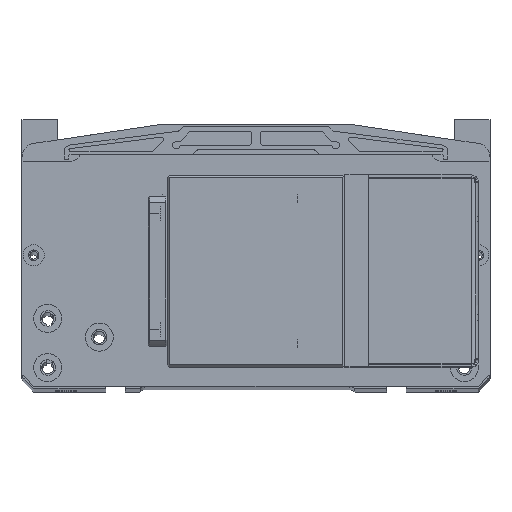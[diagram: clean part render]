
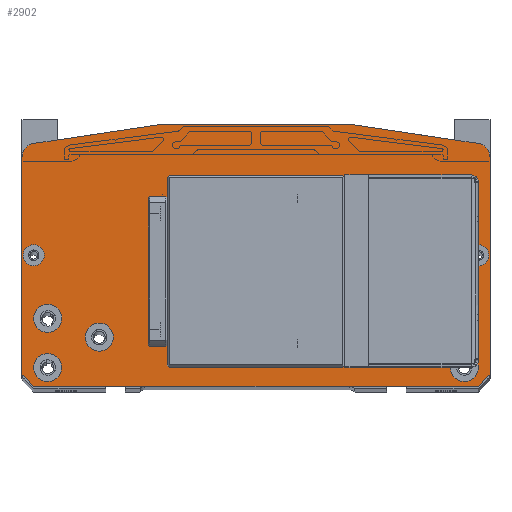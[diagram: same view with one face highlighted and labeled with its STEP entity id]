
A CAD part, top view. The second image highlights one B-rep face of the part: STEP entity #2902.
In plain terms, the highlighted planar face has unit normal (0, 0, 1).
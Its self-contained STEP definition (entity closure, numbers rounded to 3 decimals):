
#576=FACE_BOUND('',#5249,.T.);
#577=FACE_BOUND('',#5250,.T.);
#578=FACE_BOUND('',#5251,.T.);
#579=FACE_BOUND('',#5252,.T.);
#580=FACE_BOUND('',#5253,.T.);
#581=FACE_BOUND('',#5254,.T.);
#582=FACE_BOUND('',#5255,.T.);
#583=FACE_BOUND('',#5256,.T.);
#584=FACE_BOUND('',#5257,.T.);
#585=FACE_BOUND('',#5258,.T.);
#586=FACE_BOUND('',#5259,.T.);
#587=FACE_BOUND('',#5260,.T.);
#588=FACE_BOUND('',#5261,.T.);
#1221=PLANE('',#19138);
#1914=CIRCLE('',#19020,1.65);
#1929=CIRCLE('',#19049,1.65);
#1934=CIRCLE('',#19063,6.);
#1941=CIRCLE('',#19077,6.);
#1942=CIRCLE('',#19080,4.5);
#1946=CIRCLE('',#19087,4.5);
#1950=CIRCLE('',#19094,6.);
#1954=CIRCLE('',#19101,6.);
#1958=CIRCLE('',#19108,6.);
#1962=CIRCLE('',#19115,6.);
#1966=CIRCLE('',#19122,6.);
#1970=CIRCLE('',#19129,6.);
#2902=ADVANCED_FACE('',(#576,#577,#578,#579,#580,#581,#582,#583,#584,#585,
#586,#587,#588),#1221,.F.);
#5249=EDGE_LOOP('',(#11812,#11813,#11814,#11815));
#5250=EDGE_LOOP('',(#11816,#11817,#11818,#11819));
#5251=EDGE_LOOP('',(#11820));
#5252=EDGE_LOOP('',(#11821));
#5253=EDGE_LOOP('',(#11822,#11823,#11824,#11825,#11826,#11827,#11828,#11829,
#11830,#11831));
#5254=EDGE_LOOP('',(#11832));
#5255=EDGE_LOOP('',(#11833));
#5256=EDGE_LOOP('',(#11834));
#5257=EDGE_LOOP('',(#11835));
#5258=EDGE_LOOP('',(#11836));
#5259=EDGE_LOOP('',(#11837));
#5260=EDGE_LOOP('',(#11838));
#5261=EDGE_LOOP('',(#11839));
#5950=LINE('',#26451,#7349);
#6146=LINE('',#27484,#7545);
#6166=LINE('',#27529,#7565);
#6771=LINE('',#31545,#8170);
#6775=LINE('',#31553,#8174);
#6778=LINE('',#31559,#8177);
#6798=LINE('',#31595,#8197);
#6818=LINE('',#31767,#8217);
#6820=LINE('',#31770,#8219);
#6826=LINE('',#31783,#8225);
#6829=LINE('',#31789,#8228);
#6842=LINE('',#31825,#8241);
#6844=LINE('',#31910,#8243);
#6845=LINE('',#31913,#8244);
#6846=LINE('',#31915,#8245);
#6847=LINE('',#31917,#8246);
#7349=VECTOR('',#20355,1.);
#7545=VECTOR('',#20803,1.);
#7565=VECTOR('',#20853,1.);
#8170=VECTOR('',#22906,1.);
#8174=VECTOR('',#22912,1.);
#8177=VECTOR('',#22917,1.);
#8197=VECTOR('',#22949,1.);
#8217=VECTOR('',#23165,1.);
#8219=VECTOR('',#23169,1.);
#8225=VECTOR('',#23177,1.);
#8228=VECTOR('',#23182,1.);
#8241=VECTOR('',#23229,1.);
#8243=VECTOR('',#23349,1.);
#8244=VECTOR('',#23350,1.);
#8245=VECTOR('',#23351,1.);
#8246=VECTOR('',#23352,1.);
#11812=ORIENTED_EDGE('',*,*,#17078,.F.);
#11813=ORIENTED_EDGE('',*,*,#17079,.F.);
#11814=ORIENTED_EDGE('',*,*,#17080,.T.);
#11815=ORIENTED_EDGE('',*,*,#17081,.T.);
#11816=ORIENTED_EDGE('',*,*,#16921,.T.);
#11817=ORIENTED_EDGE('',*,*,#16924,.T.);
#11818=ORIENTED_EDGE('',*,*,#16944,.T.);
#11819=ORIENTED_EDGE('',*,*,#16917,.T.);
#11820=ORIENTED_EDGE('',*,*,#16979,.T.);
#11821=ORIENTED_EDGE('',*,*,#17007,.T.);
#11822=ORIENTED_EDGE('',*,*,#17012,.F.);
#11823=ORIENTED_EDGE('',*,*,#15854,.T.);
#11824=ORIENTED_EDGE('',*,*,#17044,.F.);
#11825=ORIENTED_EDGE('',*,*,#15878,.T.);
#11826=ORIENTED_EDGE('',*,*,#17043,.F.);
#11827=ORIENTED_EDGE('',*,*,#17014,.F.);
#11828=ORIENTED_EDGE('',*,*,#17020,.T.);
#11829=ORIENTED_EDGE('',*,*,#17023,.F.);
#11830=ORIENTED_EDGE('',*,*,#17024,.F.);
#11831=ORIENTED_EDGE('',*,*,#15580,.T.);
#11832=ORIENTED_EDGE('',*,*,#17074,.T.);
#11833=ORIENTED_EDGE('',*,*,#17070,.T.);
#11834=ORIENTED_EDGE('',*,*,#17066,.T.);
#11835=ORIENTED_EDGE('',*,*,#17062,.T.);
#11836=ORIENTED_EDGE('',*,*,#17058,.T.);
#11837=ORIENTED_EDGE('',*,*,#17054,.T.);
#11838=ORIENTED_EDGE('',*,*,#17050,.T.);
#11839=ORIENTED_EDGE('',*,*,#17046,.T.);
#13807=VERTEX_POINT('',#26450);
#13808=VERTEX_POINT('',#26452);
#13980=VERTEX_POINT('',#27483);
#13981=VERTEX_POINT('',#27485);
#13990=VERTEX_POINT('',#27528);
#13991=VERTEX_POINT('',#27530);
#14673=VERTEX_POINT('',#31535);
#14677=VERTEX_POINT('',#31544);
#14680=VERTEX_POINT('',#31552);
#14682=VERTEX_POINT('',#31558);
#14723=VERTEX_POINT('',#31692);
#14740=VERTEX_POINT('',#31751);
#14747=VERTEX_POINT('',#31771);
#14748=VERTEX_POINT('',#31772);
#14752=VERTEX_POINT('',#31782);
#14754=VERTEX_POINT('',#31788);
#14761=VERTEX_POINT('',#31829);
#14764=VERTEX_POINT('',#31839);
#14767=VERTEX_POINT('',#31849);
#14770=VERTEX_POINT('',#31859);
#14773=VERTEX_POINT('',#31869);
#14776=VERTEX_POINT('',#31879);
#14779=VERTEX_POINT('',#31889);
#14782=VERTEX_POINT('',#31899);
#14785=VERTEX_POINT('',#31911);
#14786=VERTEX_POINT('',#31912);
#14787=VERTEX_POINT('',#31914);
#14788=VERTEX_POINT('',#31916);
#15580=EDGE_CURVE('',#13808,#13807,#5950,.T.);
#15854=EDGE_CURVE('',#13981,#13980,#6146,.T.);
#15878=EDGE_CURVE('',#13991,#13990,#6166,.T.);
#16917=EDGE_CURVE('',#14673,#14677,#6771,.T.);
#16921=EDGE_CURVE('',#14677,#14680,#6775,.T.);
#16924=EDGE_CURVE('',#14680,#14682,#6778,.T.);
#16944=EDGE_CURVE('',#14682,#14673,#6798,.T.);
#16979=EDGE_CURVE('',#14723,#14723,#1914,.T.);
#17007=EDGE_CURVE('',#14740,#14740,#1929,.T.);
#17012=EDGE_CURVE('',#13981,#13807,#6818,.T.);
#17014=EDGE_CURVE('',#14747,#14748,#6820,.T.);
#17020=EDGE_CURVE('',#14747,#14752,#6826,.T.);
#17023=EDGE_CURVE('',#14754,#14752,#6829,.T.);
#17024=EDGE_CURVE('',#13808,#14754,#1934,.T.);
#17043=EDGE_CURVE('',#14748,#13990,#1941,.T.);
#17044=EDGE_CURVE('',#13991,#13980,#6842,.T.);
#17046=EDGE_CURVE('',#14761,#14761,#1942,.T.);
#17050=EDGE_CURVE('',#14764,#14764,#1946,.T.);
#17054=EDGE_CURVE('',#14767,#14767,#1950,.T.);
#17058=EDGE_CURVE('',#14770,#14770,#1954,.T.);
#17062=EDGE_CURVE('',#14773,#14773,#1958,.T.);
#17066=EDGE_CURVE('',#14776,#14776,#1962,.T.);
#17070=EDGE_CURVE('',#14779,#14779,#1966,.T.);
#17074=EDGE_CURVE('',#14782,#14782,#1970,.T.);
#17078=EDGE_CURVE('',#14785,#14786,#6844,.T.);
#17079=EDGE_CURVE('',#14787,#14785,#6845,.T.);
#17080=EDGE_CURVE('',#14787,#14788,#6846,.T.);
#17081=EDGE_CURVE('',#14788,#14786,#6847,.T.);
#19020=AXIS2_PLACEMENT_3D('',#31691,#23074,#23075);
#19049=AXIS2_PLACEMENT_3D('',#31750,#23145,#23146);
#19063=AXIS2_PLACEMENT_3D('',#31791,#23185,#23186);
#19077=AXIS2_PLACEMENT_3D('',#31823,#23225,#23226);
#19080=AXIS2_PLACEMENT_3D('',#31828,#23233,#23234);
#19087=AXIS2_PLACEMENT_3D('',#31838,#23247,#23248);
#19094=AXIS2_PLACEMENT_3D('',#31848,#23261,#23262);
#19101=AXIS2_PLACEMENT_3D('',#31858,#23275,#23276);
#19108=AXIS2_PLACEMENT_3D('',#31868,#23289,#23290);
#19115=AXIS2_PLACEMENT_3D('',#31878,#23303,#23304);
#19122=AXIS2_PLACEMENT_3D('',#31888,#23317,#23318);
#19129=AXIS2_PLACEMENT_3D('',#31898,#23331,#23332);
#19138=AXIS2_PLACEMENT_3D('',#31918,#23353,#23354);
#20355=DIRECTION('',(0.,-1.,0.));
#20803=DIRECTION('',(1.,0.,0.));
#20853=DIRECTION('',(0.,1.,0.));
#22906=DIRECTION('',(0.,1.,0.));
#22912=DIRECTION('',(1.,0.,0.));
#22917=DIRECTION('',(0.,-1.,0.));
#22949=DIRECTION('',(-1.,0.,0.));
#23074=DIRECTION('',(0.,0.,-1.));
#23075=DIRECTION('',(1.,0.,0.));
#23145=DIRECTION('',(0.,0.,-1.));
#23146=DIRECTION('',(1.,0.,0.));
#23165=DIRECTION('',(-0.707,0.707,0.));
#23169=DIRECTION('',(0.989,-0.148,0.));
#23177=DIRECTION('',(-1.,0.,0.));
#23182=DIRECTION('',(0.989,0.148,0.));
#23185=DIRECTION('',(0.,0.,-1.));
#23186=DIRECTION('',(-1.,0.,0.));
#23225=DIRECTION('',(0.,0.,-1.));
#23226=DIRECTION('',(0.148,0.989,0.));
#23229=DIRECTION('',(-0.707,-0.707,0.));
#23233=DIRECTION('',(0.,0.,-1.));
#23234=DIRECTION('',(1.,0.,0.));
#23247=DIRECTION('',(0.,0.,-1.));
#23248=DIRECTION('',(1.,0.,0.));
#23261=DIRECTION('',(0.,0.,-1.));
#23262=DIRECTION('',(1.,0.,0.));
#23275=DIRECTION('',(0.,0.,-1.));
#23276=DIRECTION('',(1.,0.,0.));
#23289=DIRECTION('',(0.,0.,-1.));
#23290=DIRECTION('',(1.,0.,0.));
#23303=DIRECTION('',(0.,0.,-1.));
#23304=DIRECTION('',(1.,0.,0.));
#23317=DIRECTION('',(0.,0.,-1.));
#23318=DIRECTION('',(1.,0.,0.));
#23331=DIRECTION('',(0.,0.,-1.));
#23332=DIRECTION('',(1.,0.,0.));
#23349=DIRECTION('',(1.,0.,0.));
#23350=DIRECTION('',(0.,-1.,0.));
#23351=DIRECTION('',(1.,0.,0.));
#23352=DIRECTION('',(0.,-1.,0.));
#23353=DIRECTION('',(0.,0.,-1.));
#23354=DIRECTION('',(-1.,0.,0.));
#26450=CARTESIAN_POINT('',(-100.,7.,463.));
#26451=CARTESIAN_POINT('',(-100.,99.833,463.));
#26452=CARTESIAN_POINT('',(-100.,99.833,463.));
#27483=CARTESIAN_POINT('',(95.,2.,463.));
#27484=CARTESIAN_POINT('',(67.5,2.,463.));
#27485=CARTESIAN_POINT('',(-95.,2.,463.));
#27528=CARTESIAN_POINT('',(100.,99.833,463.));
#27529=CARTESIAN_POINT('',(100.,7.,463.));
#27530=CARTESIAN_POINT('',(100.,7.,463.));
#31535=CARTESIAN_POINT('',(-37.,11.,463.));
#31544=CARTESIAN_POINT('',(-37.,91.,463.));
#31545=CARTESIAN_POINT('',(-37.,11.,463.));
#31552=CARTESIAN_POINT('',(37.,91.,463.));
#31553=CARTESIAN_POINT('',(-37.,91.,463.));
#31558=CARTESIAN_POINT('',(37.,11.,463.));
#31559=CARTESIAN_POINT('',(37.,91.,463.));
#31595=CARTESIAN_POINT('',(37.,11.,463.));
#31691=CARTESIAN_POINT('',(42.,69.,463.));
#31692=CARTESIAN_POINT('',(43.65,69.,463.));
#31750=CARTESIAN_POINT('',(42.,33.,463.));
#31751=CARTESIAN_POINT('',(43.65,33.,463.));
#31767=CARTESIAN_POINT('',(-95.,2.,463.));
#31770=CARTESIAN_POINT('',(40.,114.,463.));
#31771=CARTESIAN_POINT('',(40.,114.,463.));
#31772=CARTESIAN_POINT('',(94.89,105.766,463.));
#31782=CARTESIAN_POINT('',(-40.,114.,463.));
#31783=CARTESIAN_POINT('',(40.,114.,463.));
#31788=CARTESIAN_POINT('',(-94.89,105.766,463.));
#31789=CARTESIAN_POINT('',(-94.89,105.766,463.));
#31791=CARTESIAN_POINT('',(-94.,99.833,463.));
#31823=CARTESIAN_POINT('',(94.,99.833,463.));
#31825=CARTESIAN_POINT('',(100.,7.,463.));
#31828=CARTESIAN_POINT('',(-95.,58.,463.));
#31829=CARTESIAN_POINT('',(-90.5,58.,463.));
#31838=CARTESIAN_POINT('',(95.,58.,463.));
#31839=CARTESIAN_POINT('',(99.5,58.,463.));
#31848=CARTESIAN_POINT('',(-67.,23.,463.));
#31849=CARTESIAN_POINT('',(-61.,23.,463.));
#31858=CARTESIAN_POINT('',(67.,23.,463.));
#31859=CARTESIAN_POINT('',(73.,23.,463.));
#31868=CARTESIAN_POINT('',(-89.,31.,463.));
#31869=CARTESIAN_POINT('',(-83.,31.,463.));
#31878=CARTESIAN_POINT('',(89.,31.,463.));
#31879=CARTESIAN_POINT('',(95.,31.,463.));
#31888=CARTESIAN_POINT('',(-89.,10.,463.));
#31889=CARTESIAN_POINT('',(-83.,10.,463.));
#31898=CARTESIAN_POINT('',(89.,10.,463.));
#31899=CARTESIAN_POINT('',(95.,10.,463.));
#31910=CARTESIAN_POINT('',(-45.5,21.534,463.));
#31911=CARTESIAN_POINT('',(-45.5,21.534,463.));
#31912=CARTESIAN_POINT('',(-38.5,21.534,463.));
#31913=CARTESIAN_POINT('',(-45.5,80.466,463.));
#31914=CARTESIAN_POINT('',(-45.5,80.466,463.));
#31915=CARTESIAN_POINT('',(-45.5,80.466,463.));
#31916=CARTESIAN_POINT('',(-38.5,80.466,463.));
#31917=CARTESIAN_POINT('',(-38.5,80.466,463.));
#31918=CARTESIAN_POINT('',(0.,2.,463.));
